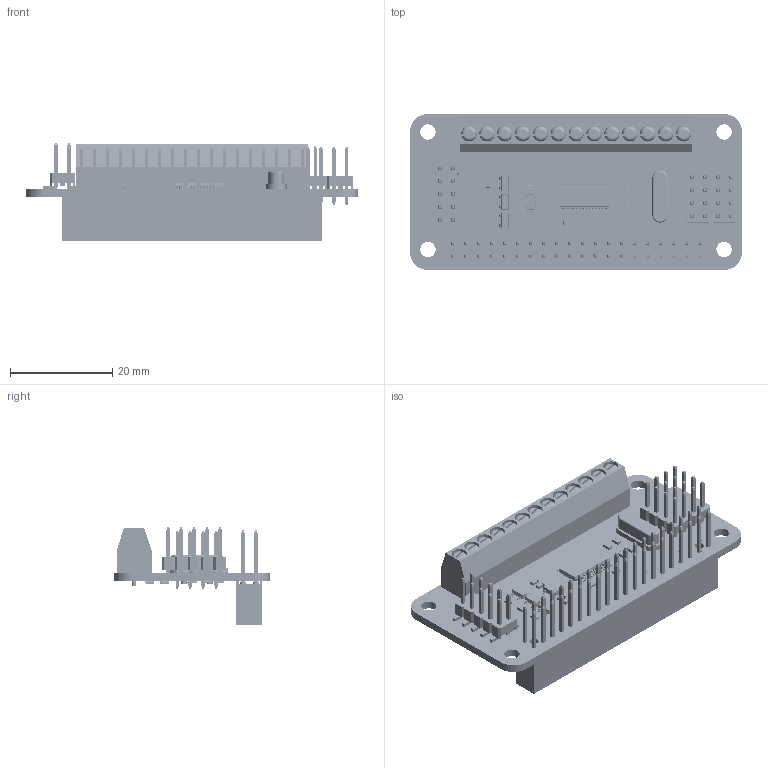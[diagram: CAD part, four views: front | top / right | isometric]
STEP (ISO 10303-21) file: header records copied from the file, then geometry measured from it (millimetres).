
FILE_DESCRIPTION((''),'2;1');
FILE_NAME('HIGH-PRECISION_AD_HAT_ASM','2026-02-26T20:07:17',('ag'),(''),'CREO PARAMETRIC BY PTC INC, 2021063','CREO PARAMETRIC BY PTC INC, 2021063','');
FILE_SCHEMA(('CONFIG_CONTROL_DESIGN','SHAPE_APPEARANCE_LAYERS_GROUPS'));
Products named in the file (80): BOARD; CAPC1608_0603_; C2_ASM; C1_ASM; C3_ASM; C4_ASM; C5_ASM; C6_ASM; C8_ASM; C14_ASM; C16_ASM; C17_ASM; RESC1608_0603_; R1_ASM; R7_ASM; R11_ASM; R17_ASM; USER_LIBRARY-TSSOP-28__X2_041A0; USER_LIBRARY-TSSOP-28__X2_041C0; USER_LIBRARY-TSSOP-28__X2_041_1; USER_LIBRARY-TSSOP-28__X2_041_2; USER_LIBRARY-TSSOP-28__X2_041D0_ASM; TSSOP-28_ASM; U1_ASM; SW3DPS-SOT-23-5-DEFAULT; U2_ASM; R5_ASM; R6_ASM; R15_ASM; R12_ASM; R13_ASM; R14_ASM; R16_ASM; C7_ASM; C9_ASM; C10_ASM; C11_ASM; C12_ASM; C13_ASM; C15_ASM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
Assembly tree (151 placements, depth 5):
  HIGH-PRECISION_AD_HAT_ASM
    BOARD
    C2_ASM
      CAPC1608_0603_
    C1_ASM
      CAPC1608_0603_
    C3_ASM
      CAPC1608_0603_
    C4_ASM
      CAPC1608_0603_
    C5_ASM
      CAPC1608_0603_
    C6_ASM
      CAPC1608_0603_
    C8_ASM
      CAPC1608_0603_
    C14_ASM
      CAPC1608_0603_
    C16_ASM
      CAPC1608_0603_
    C17_ASM
      CAPC1608_0603_
    R1_ASM
      RESC1608_0603_
    R7_ASM
      RESC1608_0603_
    R11_ASM
      RESC1608_0603_
    R17_ASM
      RESC1608_0603_
    U1_ASM
      TSSOP-28_ASM
        USER_LIBRARY-TSSOP-28__X2_041A0
        USER_LIBRARY-TSSOP-28__X2_041C0
        USER_LIBRARY-TSSOP-28__X2_041D0_ASM  x14
          USER_LIBRARY-TSSOP-28__X2_041_1
          USER_LIBRARY-TSSOP-28__X2_041_2
    U2_ASM
      SW3DPS-SOT-23-5-DEFAULT
    R5_ASM
      RESC1608_0603_
    R6_ASM
      RESC1608_0603_
    R15_ASM
      RESC1608_0603_
    R12_ASM
      RESC1608_0603_
    R13_ASM
      RESC1608_0603_
    R14_ASM
      RESC1608_0603_
    R16_ASM
      RESC1608_0603_
    C7_ASM
      CAPC1608_0603_
    C9_ASM
      CAPC1608_0603_
    C10_ASM
      CAPC1608_0603_
    C11_ASM
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Bounding box: 65.02 x 30.52 x 19.1 mm (x, y, z)
Volume: 7608.2 mm3; surface area: 13594.7 mm2
Topology: 119 solids, 143 shells, 6111 faces, 14582 edges, 8554 vertices
Faces by surface type: plane 3538, cylinder 1946, sphere 464, torus 80, bspline 39, cone 26, extrusion 18
Entity records: 195911 total; most frequent: CARTESIAN_POINT 104170, ORIENTED_EDGE 15248, DIRECTION 14790, EDGE_CURVE 7628, VECTOR 5490, LINE 5484, VERTEX_POINT 4866, PRESENTATION_STYLE_ASSIGNMENT 4731
